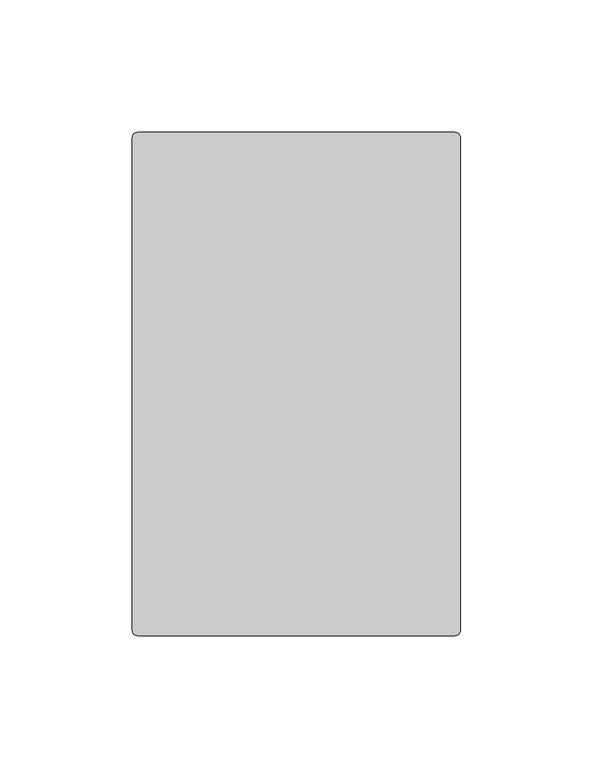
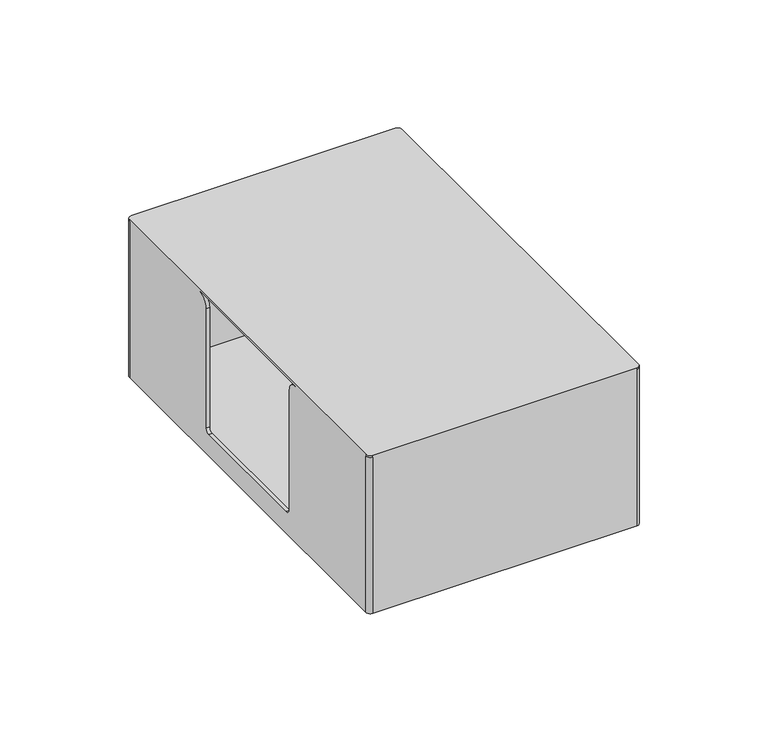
"""IFC4 building model written with IfcOpenShell, lengths in millimetres: furniture geometry, FREZZA_POP AD_Connecting bracket_for bench desk : Bracket_ZGBI - Embossed White."""

from ifc_helpers import new_model, si_unit, frame, origin, place, context, project, spatial, polyline, circle_curve, source, transform, mapped, element, save
from ifc_brep_helpers import plane_surface, cylinder_surface, revolved_surface, advanced_brep


def furniture_6a5f57b9(model_context):
    return source(origin(), model_context, "Body", "AdvancedBrep", [
        advanced_brep(
        [(1528.0, -132.5, 358.7), (1528.0, 53.5, 358.7), (1530.0, 55.5, 358.7), (1650.0, 55.5, 358.7), (1652.0, 53.5, 358.7), (1652.0, -132.5, 358.7), (1650.0, -134.5, 358.7), (1530.0, -134.5, 358.7), (1528.0, -132.5, 433.7), (1530.0, -134.5, 433.7), (1650.0, -134.5, 433.7), (1650.0, -134.5, 434.7), (1530.0, -134.5, 434.7), (1652.0, -132.5, 433.7), (1652.0, 53.5, 433.7), (1652.0, 53.5, 434.7), (1652.0, -132.5, 434.7), (1652.0, -72.0, 428.7), (1652.0, -77.0, 433.7), (1652.0, -2.0, 433.7), (1652.0, -7.0, 428.7), (1652.0, -7.0, 371.2), (1652.0, -9.0, 369.2), (1652.0, -70.0, 369.2), (1652.0, -72.0, 371.2), (1650.0, 55.5, 433.7), (1530.0, 55.5, 433.7), (1530.0, 55.5, 434.7), (1650.0, 55.5, 434.7), (1528.0, 53.5, 433.7), (1528.0, -132.5, 434.7), (1528.0, 53.5, 434.7), (1528.0, -7.0, 428.7), (1528.0, -2.0, 433.7), (1528.0, -77.0, 433.7), (1528.0, -72.0, 428.7), (1528.0, -72.0, 371.2), (1528.0, -70.0, 369.2), (1528.0, -9.0, 369.2), (1528.0, -7.0, 371.2), (1529.45, 54.0, 433.7), (1529.45, 54.0, 360.2), (1650.5, 54.0, 360.2), (1650.5, 54.0, 433.7), (1650.5, -72.0, 371.2), (1650.5, -70.0, 369.2), (1650.5, -9.0, 369.2), (1650.5, -7.0, 371.2), (1650.5, -7.0, 428.7), (1650.5, -2.0, 433.7), (1650.5, -133.0, 360.2), (1650.5, -133.0, 433.7), (1650.5, -77.0, 433.7), (1650.5, -72.0, 428.7), (1529.45, -133.0, 360.2), (1529.45, -133.0, 433.7), (1529.45, -70.0, 369.2), (1529.45, -72.0, 371.2), (1529.45, -72.0, 428.7), (1529.45, -77.0, 433.7), (1529.45, -2.0, 433.7), (1529.45, -7.0, 428.7), (1529.45, -7.0, 371.2), (1529.45, -9.0, 369.2)],
        [
            (0, 1),
            (1, 2, circle_curve(frame((1530.0, 53.5, 358.7), z_axis=(0.0, 0.0, -1.0), x_axis=(1.0, 0.0, 0.0)), 2.0)),
            (2, 3),
            (3, 4, circle_curve(frame((1650.0, 53.5, 358.7), z_axis=(0.0, 0.0, -1.0), x_axis=(1.0, 0.0, 0.0)), 2.0)),
            (4, 5),
            (5, 6, circle_curve(frame((1650.0, -132.5, 358.7), z_axis=(0.0, 0.0, -1.0), x_axis=(1.0, 0.0, 0.0)), 2.0)),
            (6, 7),
            (7, 0, circle_curve(frame((1530.0, -132.5, 358.7), z_axis=(0.0, 0.0, -1.0), x_axis=(1.0, 0.0, 0.0)), 2.0)),
            (8, 0),
            (7, 9),
            (9, 8, circle_curve(frame((1530.0, -132.5, 433.7), z_axis=(0.0, 0.0, -1.0), x_axis=(1.0, 0.0, 0.0)), 2.0)),
            (6, 10),
            (10, 11),
            (11, 12),
            (12, 9),
            (5, 13),
            (13, 10, circle_curve(frame((1650.0, -132.5, 433.7), z_axis=(0.0, 0.0, -1.0), x_axis=(1.0, 0.0, 0.0)), 2.0)),
            (4, 14),
            (14, 15),
            (15, 16),
            (16, 13),
            (17, 18, circle_curve(frame((1652.0, -77.0, 428.7), z_axis=(1.0, 0.0, 0.0), x_axis=(0.0, -1.0, 0.0)), 5.0)),
            (18, 19),
            (19, 20, circle_curve(frame((1652.0, -2.0, 428.7), z_axis=(1.0, 0.0, 0.0), x_axis=(0.0, -1.0, 0.0)), 5.0)),
            (20, 21),
            (21, 22, circle_curve(frame((1652.0, -9.0, 371.2), z_axis=(-1.0, 0.0, 0.0), x_axis=(0.0, -1.0, 0.0)), 2.0)),
            (22, 23),
            (23, 24, circle_curve(frame((1652.0, -70.0, 371.2), z_axis=(-1.0, 0.0, 0.0), x_axis=(0.0, -1.0, 0.0)), 2.0)),
            (24, 17),
            (3, 25),
            (25, 14, circle_curve(frame((1650.0, 53.5, 433.7), z_axis=(0.0, 0.0, -1.0), x_axis=(1.0, 0.0, 0.0)), 2.0)),
            (2, 26),
            (26, 27),
            (27, 28),
            (28, 25),
            (1, 29),
            (29, 26, circle_curve(frame((1530.0, 53.5, 433.7), z_axis=(0.0, 0.0, -1.0), x_axis=(1.0, 0.0, 0.0)), 2.0)),
            (8, 30),
            (30, 31),
            (31, 29),
            (32, 33, circle_curve(frame((1528.0, -2.0, 428.7), z_axis=(-1.0, 0.0, 0.0), x_axis=(0.0, -1.0, 0.0)), 5.0)),
            (33, 34),
            (34, 35, circle_curve(frame((1528.0, -77.0, 428.7), z_axis=(-1.0, 0.0, 0.0), x_axis=(0.0, -1.0, 0.0)), 5.0)),
            (35, 36),
            (36, 37, circle_curve(frame((1528.0, -70.0, 371.2), z_axis=(1.0, 0.0, 0.0), x_axis=(0.0, -1.0, 0.0)), 2.0)),
            (37, 38),
            (38, 39, circle_curve(frame((1528.0, -9.0, 371.2), z_axis=(1.0, 0.0, 0.0), x_axis=(0.0, -1.0, 0.0)), 2.0)),
            (39, 32),
            (40, 41),
            (41, 42),
            (42, 43),
            (43, 40),
            (44, 45, circle_curve(frame((1650.5, -70.0, 371.2), z_axis=(1.0, 0.0, 0.0), x_axis=(0.0, -1.0, 0.0)), 2.0)),
            (45, 46),
            (46, 47, circle_curve(frame((1650.5, -9.0, 371.2), z_axis=(1.0, 0.0, 0.0), x_axis=(0.0, -1.0, 0.0)), 2.0)),
            (47, 48),
            (48, 49, circle_curve(frame((1650.5, -2.0, 428.7), z_axis=(-1.0, 0.0, 0.0), x_axis=(0.0, -1.0, 0.0)), 5.0)),
            (49, 43),
            (42, 50),
            (50, 51),
            (51, 52),
            (52, 53, circle_curve(frame((1650.5, -77.0, 428.7), z_axis=(-1.0, 0.0, 0.0), x_axis=(0.0, -1.0, 0.0)), 5.0)),
            (53, 44),
            (50, 54),
            (54, 55),
            (55, 51),
            (56, 57, circle_curve(frame((1529.45, -70.0, 371.2), z_axis=(-1.0, 0.0, 0.0), x_axis=(0.0, -1.0, 0.0)), 2.0)),
            (57, 58),
            (58, 59, circle_curve(frame((1529.45, -77.0, 428.7), z_axis=(1.0, 0.0, 0.0), x_axis=(0.0, -1.0, 0.0)), 5.0)),
            (59, 55),
            (54, 41),
            (40, 60),
            (60, 61, circle_curve(frame((1529.45, -2.0, 428.7), z_axis=(1.0, 0.0, 0.0), x_axis=(0.0, -1.0, 0.0)), 5.0)),
            (61, 62),
            (62, 63, circle_curve(frame((1529.45, -9.0, 371.2), z_axis=(-1.0, 0.0, 0.0), x_axis=(0.0, -1.0, 0.0)), 2.0)),
            (63, 56),
            (30, 12, circle_curve(frame((1530.0, -132.5, 434.7), z_axis=(0.0, 0.0, 1.0), x_axis=(1.0, 0.0, 0.0)), 2.0)),
            (11, 16, circle_curve(frame((1650.0, -132.5, 434.7), z_axis=(0.0, 0.0, 1.0), x_axis=(1.0, 0.0, 0.0)), 2.0)),
            (15, 28, circle_curve(frame((1650.0, 53.5, 434.7), z_axis=(0.0, 0.0, 1.0), x_axis=(1.0, 0.0, 0.0)), 2.0)),
            (27, 31, circle_curve(frame((1530.0, 53.5, 434.7), z_axis=(0.0, 0.0, 1.0), x_axis=(1.0, 0.0, 0.0)), 2.0)),
            (33, 60),
            (49, 19),
            (18, 52),
            (59, 34),
            (44, 24),
            (23, 45),
            (36, 57),
            (56, 37),
            (22, 46),
            (63, 38),
            (21, 47),
            (62, 39),
            (20, 48),
            (61, 32),
            (17, 53),
            (58, 35),
        ],
        [
            plane_surface(frame((1532.0, -132.5, 358.7), z_axis=(0.0, 0.0, -1.0), x_axis=(0.0, -1.0, 0.0))),
            cylinder_surface(frame((1530.0, -132.5, 358.7), z_axis=(0.0, 0.0, 1.0), x_axis=(1.0, 0.0, 0.0)), 2.0),
            plane_surface(frame((1530.0, -134.5, 433.7), z_axis=(0.0, -1.0, 0.0), x_axis=(0.0, 0.0, -1.0))),
            cylinder_surface(frame((1650.0, -132.5, 358.7), z_axis=(0.0, 0.0, 1.0), x_axis=(1.0, 0.0, 0.0)), 2.0),
            plane_surface(frame((1652.0, -132.5, 433.7), z_axis=(1.0, 0.0, 0.0), x_axis=(0.0, 0.0, -1.0))),
            cylinder_surface(frame((1650.0, 53.5, 358.7), z_axis=(0.0, 0.0, 1.0), x_axis=(1.0, 0.0, 0.0)), 2.0),
            plane_surface(frame((1650.0, 55.5, 433.7), z_axis=(0.0, 1.0, 0.0), x_axis=(0.0, 0.0, -1.0))),
            cylinder_surface(frame((1530.0, 53.5, 358.7), z_axis=(0.0, 0.0, 1.0), x_axis=(1.0, 0.0, 0.0)), 2.0),
            plane_surface(frame((1528.0, 53.5, 433.7), z_axis=(-1.0, 0.0, 0.0), x_axis=(0.0, 0.0, -1.0))),
            plane_surface(frame((1529.45, 54.0, 433.7), z_axis=(0.0, -1.0, 0.0), x_axis=(0.0, 0.0, -1.0))),
            plane_surface(frame((1650.5, 54.0, 433.7), z_axis=(-1.0, 0.0, 0.0), x_axis=(0.0, 0.0, -1.0))),
            plane_surface(frame((1650.5, -133.0, 433.7), z_axis=(0.0, 1.0, 0.0), x_axis=(0.0, 0.0, -1.0))),
            plane_surface(frame((1529.45, -133.0, 433.7), z_axis=(1.0, 0.0, 0.0), x_axis=(0.0, 0.0, -1.0))),
            plane_surface(frame((1532.0, -132.5, 360.2), z_axis=(0.0, 0.0, 1.0), x_axis=(0.0, 1.0, 0.0))),
            plane_surface(frame((1532.0, -132.5, 434.7), z_axis=(0.0, 0.0, 1.0), x_axis=(0.0, 1.0, 0.0))),
            plane_surface(frame((1532.0, -132.5, 433.7), z_axis=(0.0, 0.0, -1.0), x_axis=(0.0, -1.0, 0.0))),
            cylinder_surface(frame((1530.0, -132.5, 433.7), z_axis=(0.0, 0.0, 1.0), x_axis=(1.0, 0.0, 0.0)), 2.0),
            cylinder_surface(frame((1650.0, -132.5, 433.7), z_axis=(0.0, 0.0, 1.0), x_axis=(1.0, 0.0, 0.0)), 2.0),
            cylinder_surface(frame((1650.0, 53.5, 433.7), z_axis=(0.0, 0.0, 1.0), x_axis=(1.0, 0.0, 0.0)), 2.0),
            cylinder_surface(frame((1530.0, 53.5, 433.7), z_axis=(0.0, 0.0, 1.0), x_axis=(1.0, 0.0, 0.0)), 2.0),
            revolved_surface(polyline([(1652.0, -72.0, 371.2), (1650.5, -72.0, 371.2)]), (1652.0, -70.0, 371.2), (1.0, 0.0, 0.0)),
            revolved_surface(polyline([(1529.45, -72.0, 371.2), (1528.0, -72.0, 371.2)]), (1652.0, -70.0, 371.2), (1.0, 0.0, 0.0)),
            plane_surface(frame((1652.0, -70.0, 369.2), z_axis=(0.0, 0.0, 1.0), x_axis=(-1.0, 0.0, 0.0))),
            revolved_surface(polyline([(1652.0, -11.0, 371.2), (1650.5, -11.0, 371.2)]), (1652.0, -9.0, 371.2), (1.0, 0.0, 0.0)),
            revolved_surface(polyline([(1529.45, -11.0, 371.2), (1528.0, -11.0, 371.2)]), (1652.0, -9.0, 371.2), (1.0, 0.0, 0.0)),
            plane_surface(frame((1652.0, -7.0, 371.2), z_axis=(0.0, -1.0, 0.0), x_axis=(-1.0, 0.0, 0.0))),
            cylinder_surface(frame((1652.0, -2.0, 428.7), z_axis=(-1.0, 0.0, 0.0), x_axis=(0.0, -1.0, 0.0)), 5.0),
            cylinder_surface(frame((1652.0, -77.0, 428.7), z_axis=(-1.0, 0.0, 0.0), x_axis=(0.0, -1.0, 0.0)), 5.0),
            plane_surface(frame((1652.0, -72.0, 428.7), z_axis=(0.0, 1.0, 0.0), x_axis=(-1.0, 0.0, 0.0))),
        ],
        [
            (0, [[1, 2, 3, 4, 5, 6, 7, 8]]),
            (1, [[9, -8, 10, 11]]),
            (2, [[-7, 12, 13, 14, 15, -10]]),
            (3, [[-12, -6, 16, 17]]),
            (4, [[-5, 18, 19, 20, 21, -16], [22, 23, 24, 25, 26, 27, 28, 29]]),
            (5, [[-18, -4, 30, 31]]),
            (6, [[-3, 32, 33, 34, 35, -30]]),
            (7, [[-32, -2, 36, 37]]),
            (8, [[-1, -9, 38, 39, 40, -36], [41, 42, 43, 44, 45, 46, 47, 48]]),
            (9, [[49, 50, 51, 52]]),
            (10, [[53, 54, 55, 56, 57, 58, -51, 59, 60, 61, 62, 63]]),
            (11, [[-60, 64, 65, 66]]),
            (12, [[67, 68, 69, 70, -65, 71, -49, 72, 73, 74, 75, 76]]),
            (13, [[-50, -71, -64, -59]]),
            (14, [[77, -14, 78, -20, 79, -34, 80, -39]]),
            (15, [[-42, 81, -72, -52, -58, 82, -23, 83, -61, -66, -70, 84]]),
            (16, [[-77, -38, -11, -15]]),
            (17, [[-78, -13, -17, -21]]),
            (18, [[-79, -19, -31, -35]]),
            (19, [[-80, -33, -37, -40]]),
            (20, [[85, -28, 86, -53]]),
            (21, [[87, -67, 88, -45]]),
            (22, [[-86, -27, 89, -54]]),
            (22, [[-88, -76, 90, -46]]),
            (23, [[-89, -26, 91, -55]]),
            (24, [[-90, -75, 92, -47]]),
            (25, [[-91, -25, 93, -56]]),
            (25, [[-92, -74, 94, -48]]),
            (26, [[-93, -24, -82, -57]]),
            (26, [[-94, -73, -81, -41]]),
            (27, [[95, -62, -83, -22]]),
            (27, [[96, -43, -84, -69]]),
            (28, [[-85, -63, -95, -29]]),
            (28, [[-87, -44, -96, -68]]),
        ],
    ),
    ])


if __name__ == "__main__":
    model = new_model("IFC4")
    model_context = context("Model", 3, world=origin())
    ifc_project = project(units=[si_unit("LENGTHUNIT", "METRE", prefix="MILLI")], contexts=[model_context])
    site = spatial("IfcSite", under=ifc_project)
    building = spatial("IfcBuilding", under=site)
    placement = place(None, origin())
    furniture_shape = furniture_6a5f57b9(model_context)
    element("IfcFurniture", 1, ObjectType="FREZZA_POP AD_Connecting bracket_for bench desk : Bracket_ZGBI - Embossed White", at=placement, inside=building, context=model_context, shape_type="MappedRepresentation", body=[
        mapped(furniture_shape, transform((0.0, 0.0, 0.0), x_axis=(1.0, 0.0, 0.0), y_axis=(0.0, 1.0, 0.0), z_axis=(0.0, 0.0, 1.0))),
    ])
    save(model, "model.ifc")
